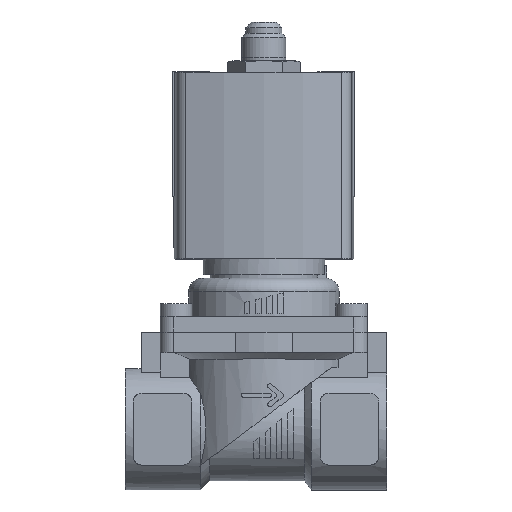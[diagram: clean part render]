
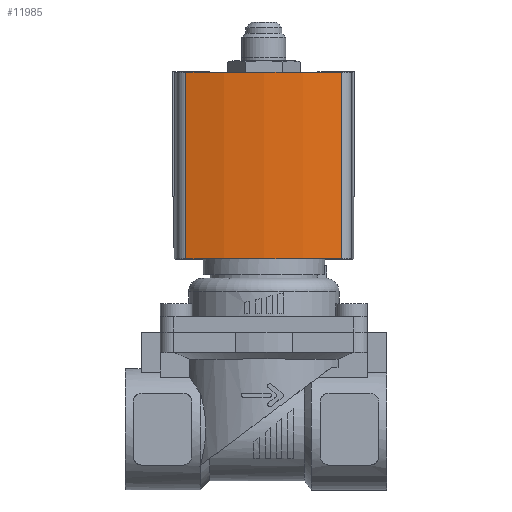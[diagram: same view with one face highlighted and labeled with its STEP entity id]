
A CAD part, top view. The second image highlights one B-rep face of the part: STEP entity #11985.
In plain terms, the highlighted cylindrical face has radius 60 mm (diameter 120 mm), a partial arc.
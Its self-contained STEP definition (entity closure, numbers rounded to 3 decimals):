
#1490=LINE('',#18359,#2498);
#1491=LINE('',#18363,#2499);
#2498=VECTOR('',#15204,1000.);
#2499=VECTOR('',#15209,1000.);
#4677=ORIENTED_EDGE('',*,*,#6615,.T.);
#4678=ORIENTED_EDGE('',*,*,#6616,.F.);
#4679=ORIENTED_EDGE('',*,*,#5901,.F.);
#4680=ORIENTED_EDGE('',*,*,#6614,.T.);
#5901=EDGE_CURVE('',#7103,#7104,#7823,.T.);
#6614=EDGE_CURVE('',#7103,#7609,#1490,.T.);
#6615=EDGE_CURVE('',#7609,#7610,#7917,.T.);
#6616=EDGE_CURVE('',#7104,#7610,#1491,.T.);
#7103=VERTEX_POINT('',#17013);
#7104=VERTEX_POINT('',#17015);
#7609=VERTEX_POINT('',#18358);
#7610=VERTEX_POINT('',#18362);
#7823=CIRCLE('',#12591,60.);
#7917=CIRCLE('',#12812,60.);
#8325=EDGE_LOOP('',(#4677,#4678,#4679,#4680));
#8895=FACE_BOUND('',#8325,.T.);
#9152=CYLINDRICAL_SURFACE('',#12811,60.);
#11985=ADVANCED_FACE('',(#8895),#9152,.T.);
#12591=AXIS2_PLACEMENT_3D('',#17014,#14145,#14146);
#12811=AXIS2_PLACEMENT_3D('',#18360,#15205,#15206);
#12812=AXIS2_PLACEMENT_3D('',#18361,#15207,#15208);
#14145=DIRECTION('',(0.,1.,0.));
#14146=DIRECTION('',(1.,0.,0.));
#15204=DIRECTION('',(0.,-1.,0.));
#15205=DIRECTION('',(0.,-1.,0.));
#15206=DIRECTION('',(0.,0.,-1.));
#15207=DIRECTION('',(0.,1.,0.));
#15208=DIRECTION('',(1.,0.,0.));
#15209=DIRECTION('',(0.,-1.,0.));
#17013=CARTESIAN_POINT('',(20.947,15.5,17.315));
#17014=CARTESIAN_POINT('',(-36.5,15.5,0.));
#17015=CARTESIAN_POINT('',(20.947,15.5,-17.315));
#18358=CARTESIAN_POINT('',(20.947,-25.9,17.315));
#18359=CARTESIAN_POINT('',(20.947,15.5,17.315));
#18360=CARTESIAN_POINT('',(-36.5,15.5,0.));
#18361=CARTESIAN_POINT('',(-36.5,-25.9,0.));
#18362=CARTESIAN_POINT('',(20.947,-25.9,-17.315));
#18363=CARTESIAN_POINT('',(20.947,15.5,-17.315));
